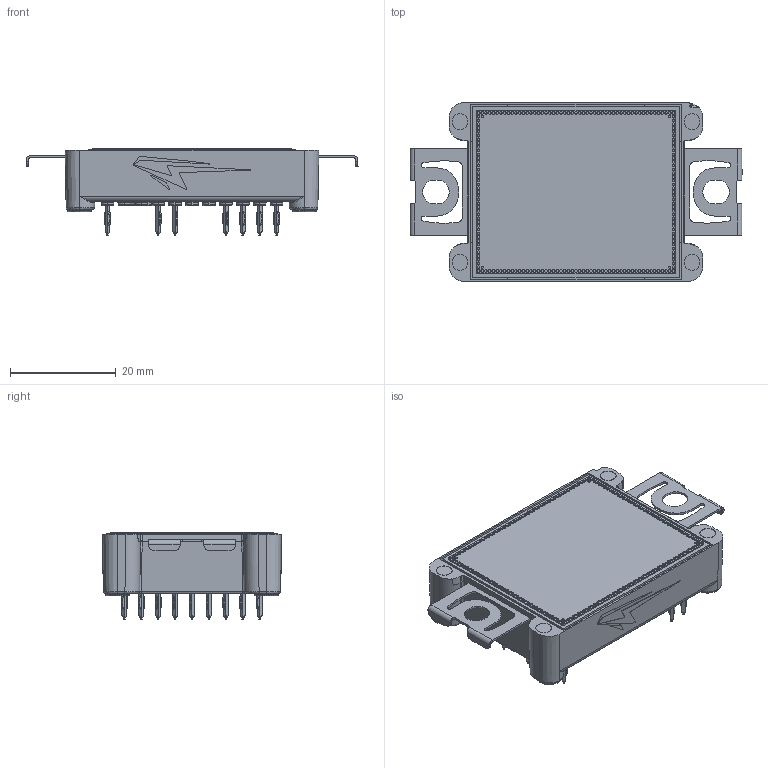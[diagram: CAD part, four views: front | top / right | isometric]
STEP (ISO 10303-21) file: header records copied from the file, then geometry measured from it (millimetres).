
FILE_DESCRIPTION (( 'STEP AP214' ), '1' );
FILE_NAME ('Wolfspeed_CBB0xxM12FM3_Power_Module_External.STEP', '2023-01-11T19:01:24', ( '' ), ( '' ), 'SwSTEP 2.0', 'SolidWorks 2022', '' );
FILE_SCHEMA (( 'AUTOMOTIVE_DESIGN' ));
Length unit declared in the file: millimetre
Products named in the file (2): Wolfspeed_CBB0xxM12FM3_Power_Module_External; Wolfspeed_CBB0xxM12FM3_Power_Module_Internal
Assembly tree (1 placements, depth 2):
  Wolfspeed_CBB0xxM12FM3_Power_Module_External
    Wolfspeed_CBB0xxM12FM3_Power_Module_Internal
Bounding box: 62.8 x 33.8 x 16.4 mm (x, y, z)
Volume: 14892.6 mm3; surface area: 7566.6 mm2
Topology: 1 solids, 1 shells, 3082 faces, 7023 edges, 4399 vertices
Faces by surface type: cylinder 1027, plane 861, cone 574, torus 391, bspline 227, sphere 2
Entity records: 112845 total; most frequent: CARTESIAN_POINT 25122, DIRECTION 14611, ORIENTED_EDGE 14036, EDGE_CURVE 7018, AXIS2_PLACEMENT_3D 5955, VERTEX_POINT 4399, EDGE_LOOP 3551, CIRCLE 3096
